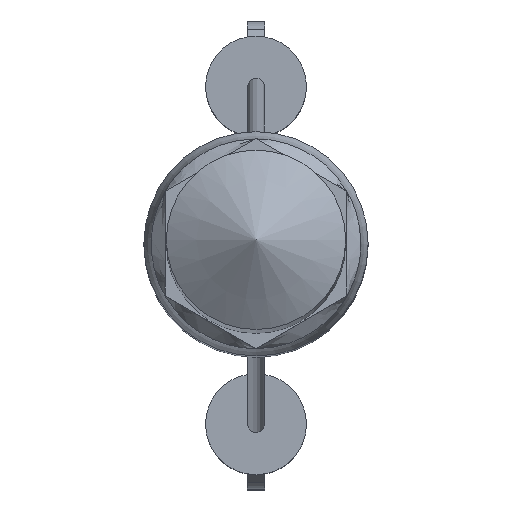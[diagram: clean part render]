
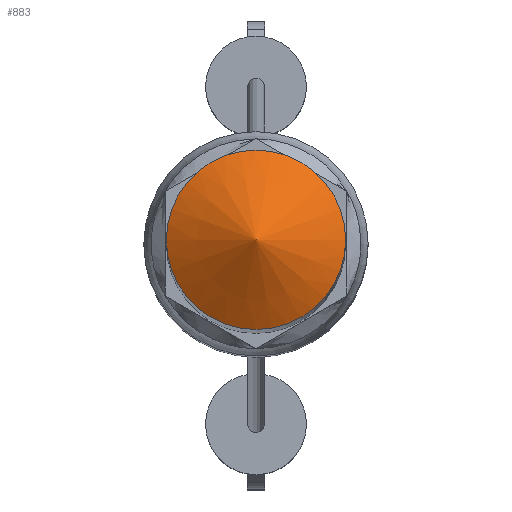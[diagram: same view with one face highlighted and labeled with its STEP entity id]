
A CAD part, top view. The second image highlights one B-rep face of the part: STEP entity #883.
In plain terms, the highlighted conical face has half-angle 60 degrees and reference radius 4 mm.
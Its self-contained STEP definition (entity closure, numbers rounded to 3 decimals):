
#33 = CARTESIAN_POINT ( 'NONE',  ( 0., 0., 97.691 ) ) ;
#125 = EDGE_CURVE ( 'NONE', #1681, #1681, #418, .T. ) ;
#365 = EDGE_LOOP ( 'NONE', ( #1456 ) ) ;
#418 = CIRCLE ( 'NONE', #1581, 4. ) ;
#422 = FACE_OUTER_BOUND ( 'NONE', #365, .T. ) ;
#866 = DIRECTION ( 'NONE',  ( 1., 0., 0. ) ) ;
#883 = ADVANCED_FACE ( 'NONE', ( #422 ), #1974, .T. ) ;
#1026 = DIRECTION ( 'NONE',  ( 0., 0., 1. ) ) ;
#1276 = DIRECTION ( 'NONE',  ( 0., 0., -1. ) ) ;
#1363 = AXIS2_PLACEMENT_3D ( 'NONE', #2044, #1276, #1574 ) ;
#1456 = ORIENTED_EDGE ( 'NONE', *, *, #125, .T. ) ;
#1574 = DIRECTION ( 'NONE',  ( -1., 0., 0. ) ) ;
#1581 = AXIS2_PLACEMENT_3D ( 'NONE', #33, #1026, #866 ) ;
#1681 = VERTEX_POINT ( 'NONE', #1840 ) ;
#1840 = CARTESIAN_POINT ( 'NONE',  ( 4., 0., 97.691 ) ) ;
#1974 = CONICAL_SURFACE ( 'NONE', #1363, 4., 1.047 ) ;
#2044 = CARTESIAN_POINT ( 'NONE',  ( 0., 0., 97.691 ) ) ;
